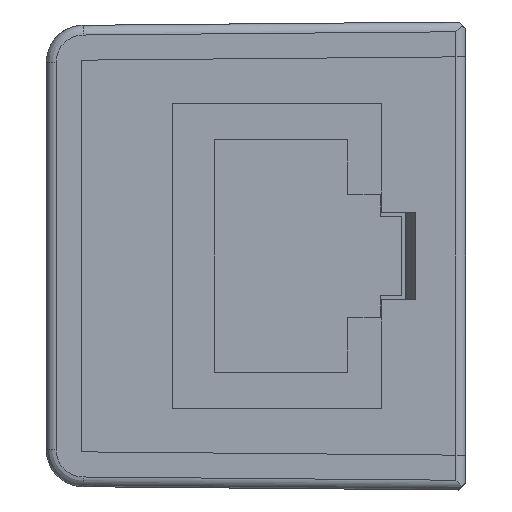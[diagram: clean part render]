
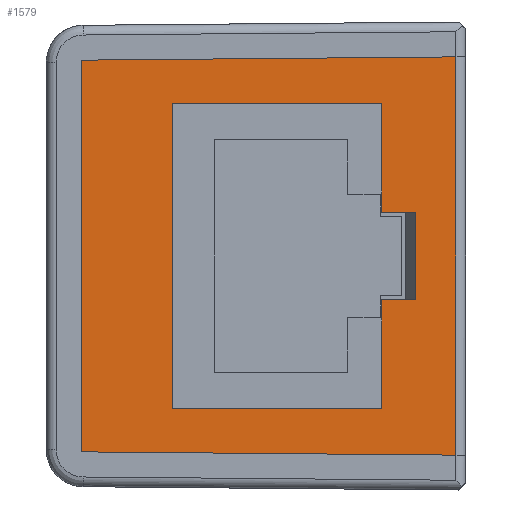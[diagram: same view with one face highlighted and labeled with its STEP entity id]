
A CAD part, left-side view. The second image highlights one B-rep face of the part: STEP entity #1579.
In plain terms, the highlighted planar face has unit normal (-1, 0, 0).
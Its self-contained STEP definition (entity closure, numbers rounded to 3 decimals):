
#300 = VECTOR ( 'NONE', #1824, 1000. ) ;
#384 = VECTOR ( 'NONE', #4351, 1000. ) ;
#692 = DIRECTION ( 'NONE',  ( 0., -1., -0.009 ) ) ;
#792 = CARTESIAN_POINT ( 'NONE',  ( -34.4, 5.52, 7.825 ) ) ;
#1045 = DIRECTION ( 'NONE',  ( 0., -1., 0. ) ) ;
#1069 = ORIENTED_EDGE ( 'NONE', *, *, #18429, .T. ) ;
#1530 = VECTOR ( 'NONE', #9318, 1000. ) ;
#1579 = ADVANCED_FACE ( 'NONE', ( #3342, #19899 ), #21293, .T. ) ;
#1680 = VERTEX_POINT ( 'NONE', #11894 ) ;
#1706 = LINE ( 'NONE', #12450, #13400 ) ;
#1824 = DIRECTION ( 'NONE',  ( 0., 0., -1. ) ) ;
#1903 = CARTESIAN_POINT ( 'NONE',  ( -34.4, 10.2, -10.046 ) ) ;
#1920 = CARTESIAN_POINT ( 'NONE',  ( -34.4, -9., -10.213 ) ) ;
#2520 = VECTOR ( 'NONE', #1045, 1000. ) ;
#2636 = CARTESIAN_POINT ( 'NONE',  ( -34.4, -5.21, -2.25 ) ) ;
#2851 = DIRECTION ( 'NONE',  ( 0., 1., 0. ) ) ;
#3342 = FACE_OUTER_BOUND ( 'NONE', #15643, .T. ) ;
#4351 = DIRECTION ( 'NONE',  ( 0., 1., -0.009 ) ) ;
#4538 = EDGE_CURVE ( 'NONE', #5658, #12913, #1706, .T. ) ;
#4577 = EDGE_CURVE ( 'NONE', #8772, #16222, #20101, .T. ) ;
#4717 = ORIENTED_EDGE ( 'NONE', *, *, #4577, .T. ) ;
#5009 = LINE ( 'NONE', #9056, #19403 ) ;
#5562 = DIRECTION ( 'NONE',  ( 0., -1., 0. ) ) ;
#5658 = VERTEX_POINT ( 'NONE', #1903 ) ;
#5859 = ORIENTED_EDGE ( 'NONE', *, *, #6981, .T. ) ;
#5864 = AXIS2_PLACEMENT_3D ( 'NONE', #25318, #13633, #9590 ) ;
#6289 = CARTESIAN_POINT ( 'NONE',  ( -34.4, 10.2, 10.046 ) ) ;
#6646 = ORIENTED_EDGE ( 'NONE', *, *, #19342, .T. ) ;
#6738 = VERTEX_POINT ( 'NONE', #2636 ) ;
#6893 = CARTESIAN_POINT ( 'NONE',  ( -34.4, -5.21, 7.825 ) ) ;
#6981 = EDGE_CURVE ( 'NONE', #16222, #17940, #5009, .T. ) ;
#7027 = EDGE_CURVE ( 'NONE', #6738, #8772, #9951, .T. ) ;
#7152 = VERTEX_POINT ( 'NONE', #18435 ) ;
#7356 = LINE ( 'NONE', #11545, #300 ) ;
#8170 = ORIENTED_EDGE ( 'NONE', *, *, #8768, .T. ) ;
#8652 = CARTESIAN_POINT ( 'NONE',  ( -34.4, 5.52, -7.825 ) ) ;
#8768 = EDGE_CURVE ( 'NONE', #17940, #23886, #10490, .T. ) ;
#8772 = VERTEX_POINT ( 'NONE', #18605 ) ;
#8931 = VECTOR ( 'NONE', #21847, 1000. ) ;
#9056 = CARTESIAN_POINT ( 'NONE',  ( -34.4, 5.52, -10.875 ) ) ;
#9318 = DIRECTION ( 'NONE',  ( 0., 0., -1. ) ) ;
#9590 = DIRECTION ( 'NONE',  ( 0., 0., 1. ) ) ;
#9951 = LINE ( 'NONE', #13095, #16671 ) ;
#9987 = VECTOR ( 'NONE', #5562, 1000. ) ;
#10384 = CARTESIAN_POINT ( 'NONE',  ( -34.4, -9., 10.213 ) ) ;
#10490 = LINE ( 'NONE', #14288, #2520 ) ;
#10518 = VECTOR ( 'NONE', #20253, 1000. ) ;
#10818 = CARTESIAN_POINT ( 'NONE',  ( -34.4, 10.6, -7.825 ) ) ;
#11069 = LINE ( 'NONE', #15872, #8931 ) ;
#11226 = EDGE_CURVE ( 'NONE', #1680, #12913, #12610, .T. ) ;
#11295 = CARTESIAN_POINT ( 'NONE',  ( -34.4, -6.91, -2.25 ) ) ;
#11545 = CARTESIAN_POINT ( 'NONE',  ( -34.4, -5.21, -10.875 ) ) ;
#11589 = EDGE_CURVE ( 'NONE', #16419, #6738, #19731, .T. ) ;
#11638 = ORIENTED_EDGE ( 'NONE', *, *, #13344, .T. ) ;
#11831 = EDGE_CURVE ( 'NONE', #16576, #5658, #20050, .T. ) ;
#11865 = ORIENTED_EDGE ( 'NONE', *, *, #11226, .F. ) ;
#11894 = CARTESIAN_POINT ( 'NONE',  ( -34.4, -9., 10.213 ) ) ;
#12173 = VECTOR ( 'NONE', #2851, 1000. ) ;
#12343 = ORIENTED_EDGE ( 'NONE', *, *, #4538, .T. ) ;
#12362 = LINE ( 'NONE', #10384, #384 ) ;
#12450 = CARTESIAN_POINT ( 'NONE',  ( -34.4, 10.2, -10.046 ) ) ;
#12610 = LINE ( 'NONE', #21200, #1530 ) ;
#12913 = VERTEX_POINT ( 'NONE', #1920 ) ;
#13095 = CARTESIAN_POINT ( 'NONE',  ( -34.4, -5.21, -10.875 ) ) ;
#13336 = CARTESIAN_POINT ( 'NONE',  ( -34.4, 10.2, -10.875 ) ) ;
#13344 = EDGE_CURVE ( 'NONE', #17246, #7152, #24044, .T. ) ;
#13347 = DIRECTION ( 'NONE',  ( 0., 0., 1. ) ) ;
#13400 = VECTOR ( 'NONE', #692, 1000. ) ;
#13494 = CARTESIAN_POINT ( 'NONE',  ( -34.4, -6.95, 2.25 ) ) ;
#13633 = DIRECTION ( 'NONE',  ( -1., 0., 0. ) ) ;
#14288 = CARTESIAN_POINT ( 'NONE',  ( -34.4, 10.6, 7.825 ) ) ;
#14631 = CARTESIAN_POINT ( 'NONE',  ( -34.4, -5.21, -2.25 ) ) ;
#15162 = CARTESIAN_POINT ( 'NONE',  ( -34.4, -5.21, 2.25 ) ) ;
#15643 = EDGE_LOOP ( 'NONE', ( #12343, #11865, #23612, #18312 ) ) ;
#15872 = CARTESIAN_POINT ( 'NONE',  ( -34.4, -6.91, -10.875 ) ) ;
#16222 = VERTEX_POINT ( 'NONE', #8652 ) ;
#16419 = VERTEX_POINT ( 'NONE', #11295 ) ;
#16576 = VERTEX_POINT ( 'NONE', #6289 ) ;
#16671 = VECTOR ( 'NONE', #17001, 1000. ) ;
#17001 = DIRECTION ( 'NONE',  ( 0., 0., -1. ) ) ;
#17046 = EDGE_CURVE ( 'NONE', #1680, #16576, #12362, .T. ) ;
#17246 = VERTEX_POINT ( 'NONE', #15162 ) ;
#17416 = DIRECTION ( 'NONE',  ( 0., 0., -1. ) ) ;
#17940 = VERTEX_POINT ( 'NONE', #792 ) ;
#18312 = ORIENTED_EDGE ( 'NONE', *, *, #11831, .T. ) ;
#18429 = EDGE_CURVE ( 'NONE', #7152, #16419, #11069, .T. ) ;
#18435 = CARTESIAN_POINT ( 'NONE',  ( -34.4, -6.91, 2.25 ) ) ;
#18605 = CARTESIAN_POINT ( 'NONE',  ( -34.4, -5.21, -7.825 ) ) ;
#19052 = VECTOR ( 'NONE', #17416, 1000. ) ;
#19342 = EDGE_CURVE ( 'NONE', #23886, #17246, #7356, .T. ) ;
#19403 = VECTOR ( 'NONE', #13347, 1000. ) ;
#19731 = LINE ( 'NONE', #14631, #10518 ) ;
#19899 = FACE_BOUND ( 'NONE', #22542, .T. ) ;
#20050 = LINE ( 'NONE', #13336, #19052 ) ;
#20101 = LINE ( 'NONE', #10818, #12173 ) ;
#20253 = DIRECTION ( 'NONE',  ( 0., 1., 0. ) ) ;
#21200 = CARTESIAN_POINT ( 'NONE',  ( -34.4, -9., 10.075 ) ) ;
#21293 = PLANE ( 'NONE',  #5864 ) ;
#21847 = DIRECTION ( 'NONE',  ( 0., 0., -1. ) ) ;
#22542 = EDGE_LOOP ( 'NONE', ( #1069, #24881, #23425, #4717, #5859, #8170, #6646, #11638 ) ) ;
#23425 = ORIENTED_EDGE ( 'NONE', *, *, #7027, .T. ) ;
#23612 = ORIENTED_EDGE ( 'NONE', *, *, #17046, .T. ) ;
#23886 = VERTEX_POINT ( 'NONE', #6893 ) ;
#24044 = LINE ( 'NONE', #13494, #9987 ) ;
#24881 = ORIENTED_EDGE ( 'NONE', *, *, #11589, .T. ) ;
#25318 = CARTESIAN_POINT ( 'NONE',  ( -34.4, 10.6, -10.875 ) ) ;
